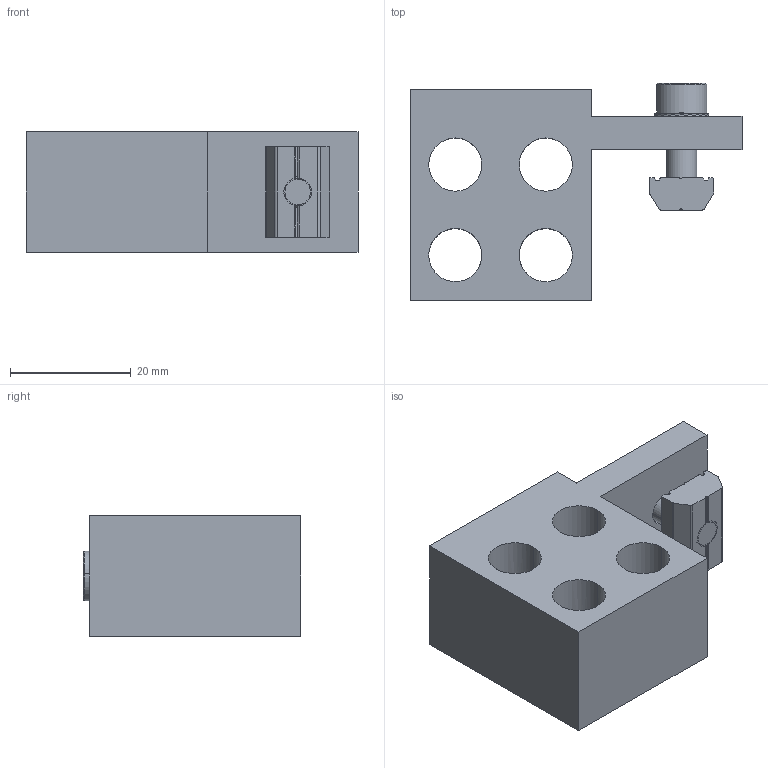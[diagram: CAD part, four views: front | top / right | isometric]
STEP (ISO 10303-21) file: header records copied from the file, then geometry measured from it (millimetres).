
FILE_DESCRIPTION (( 'STEP AP214' ), '1' );
FILE_NAME ('SMB1-9G18T.STEP', '2023-01-06T08:43:03', ( 'Windows User' ), ( 'P R C' ), 'SwSTEP 2.0', 'SolidWorks 2018', '' );
FILE_SCHEMA (( 'AUTOMOTIVE_DESIGN' ));
Length unit declared in the file: millimetre
Products named in the file (5): SMB1-9G18; PTN-M5; PTS-M5; SMB1-9G18T; PTC-M5L16
Assembly tree (4 placements, depth 2):
  SMB1-9G18T
    SMB1-9G18
    PTC-M5L16
    PTS-M5
    PTN-M5
Bounding box: 55 x 35.95 x 20 mm (x, y, z)
Volume: 18203.3 mm3; surface area: 9580.5 mm2
Topology: 4 solids, 4 shells, 257 faces, 763 edges, 505 vertices
Faces by surface type: plane 204, cylinder 45, cone 8
Entity records: 9267 total; most frequent: CARTESIAN_POINT 1858, ORIENTED_EDGE 1522, DIRECTION 1499, EDGE_CURVE 761, AXIS2_PLACEMENT_3D 510, VERTEX_POINT 505, VECTOR 479, LINE 479
